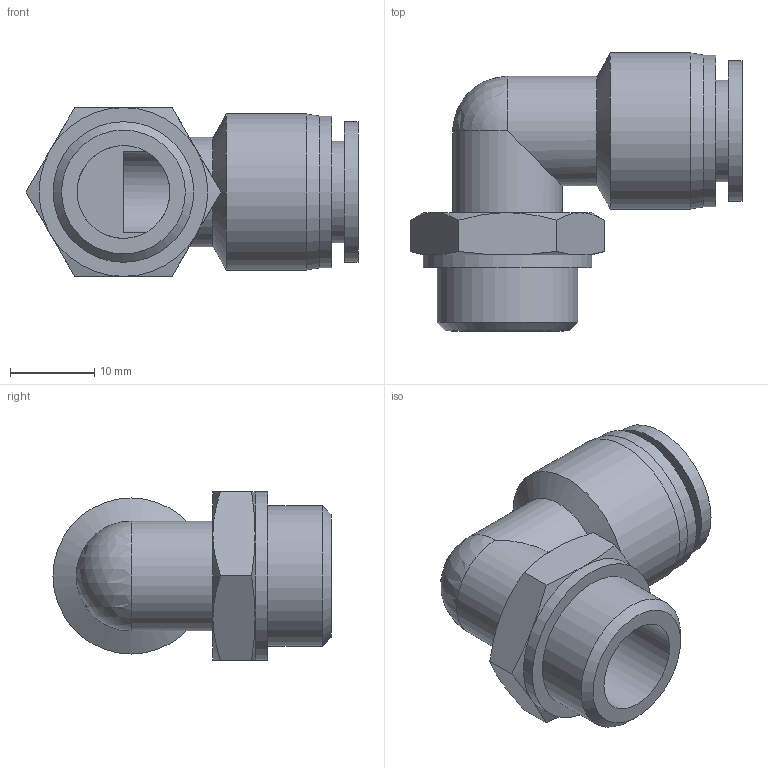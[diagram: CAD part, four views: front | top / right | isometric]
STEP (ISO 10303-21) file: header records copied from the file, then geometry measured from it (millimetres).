
FILE_DESCRIPTION(/* description */ (''),/* implementation_level */ '2;1');
FILE_NAME(/* name */ 'S:\UTecnico\ArchivioUT\Speciali Clienti\Speciali KONFIT\DISEGNI 3D\RP\RP 72\RP723810.stp',/* time_stamp */ '2013-07-05T11:50:13+02:00',/* author */ ('UT5'),/* organization */ (''),/* preprocessor_version */ 'ST-DEVELOPER v15.2',/* originating_system */ 'Autodesk Inventor 2014',/* authorisation */ '');
FILE_SCHEMA (('AUTOMOTIVE_DESIGN { 1 0 10303 214 3 1 1 }'));
Length unit declared in the file: millimetre
Products named in the file (1): RP723810
Bounding box: 39.35 x 32.95 x 20 mm (x, y, z)
Volume: 6271.7 mm3; surface area: 5125.5 mm2
Topology: 1 solids, 1 shells, 40 faces, 87 edges, 51 vertices
Faces by surface type: cone 15, plane 14, cylinder 10, sphere 1
Full cylindrical faces by diameter (mm): 10 x1, 11 x1, 12 x1, 13 x2, 16.662 x1, 16.7 x1, 18 x1, 18.5 x1, 20 x1
Entity records: 1006 total; most frequent: CARTESIAN_POINT 236, DIRECTION 157, ORIENTED_EDGE 134, AXIS2_PLACEMENT_3D 74, EDGE_CURVE 67, EDGE_LOOP 59, VERTEX_POINT 46, ADVANCED_FACE 40
